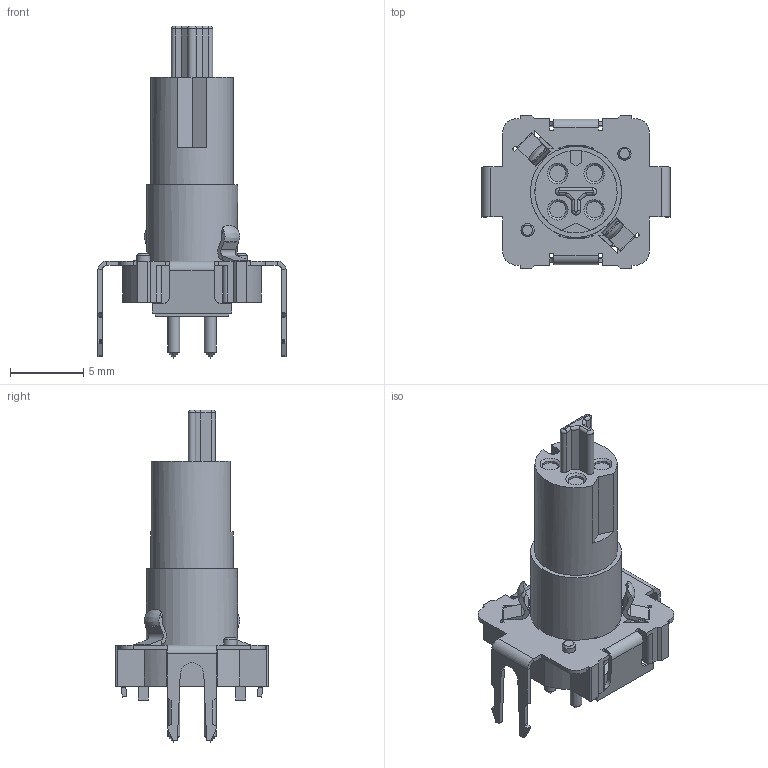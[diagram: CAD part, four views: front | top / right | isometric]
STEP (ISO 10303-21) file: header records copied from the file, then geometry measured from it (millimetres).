
FILE_DESCRIPTION(/* description */ (''),/* implementation_level */ '2;1');
FILE_NAME(/* name */ 'K:\Step\42\42K1A1578.stp',/* time_stamp */ '2017-03-22T10:06:00+01:00',/* author */ ('ulrikefromm'),/* organization */ (''),/* preprocessor_version */ 'ST-DEVELOPER v15.6',/* originating_system */ 'Autodesk Inventor 2015',/* authorisation */ '');
FILE_SCHEMA (('AUTOMOTIVE_DESIGN { 1 0 10303 214 3 1 1 }'));
Length unit declared in the file: millimetre
Products named in the file (1): Bauteil1
Bounding box: 12.8 x 10.4 x 22.6 mm (x, y, z)
Volume: 574.5 mm3; surface area: 814.6 mm2
Topology: 1 solids, 1 shells, 335 faces, 944 edges, 623 vertices
Faces by surface type: plane 216, cylinder 97, bspline 12, cone 10
Full cylindrical faces by diameter (mm): 0.8 x4, 0.9 x2, 1.1 x4, 5.6 x1, 6.2 x1
Entity records: 10962 total; most frequent: CARTESIAN_POINT 2297, ORIENTED_EDGE 1768, DIRECTION 1755, EDGE_CURVE 884, LINE 651, VECTOR 651, VERTEX_POINT 572, AXIS2_PLACEMENT_3D 552
